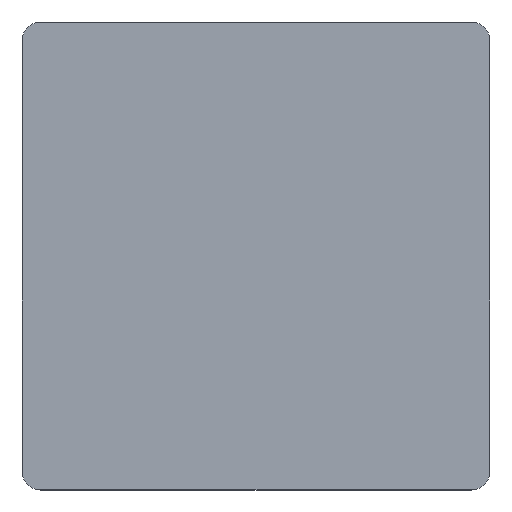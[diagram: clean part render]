
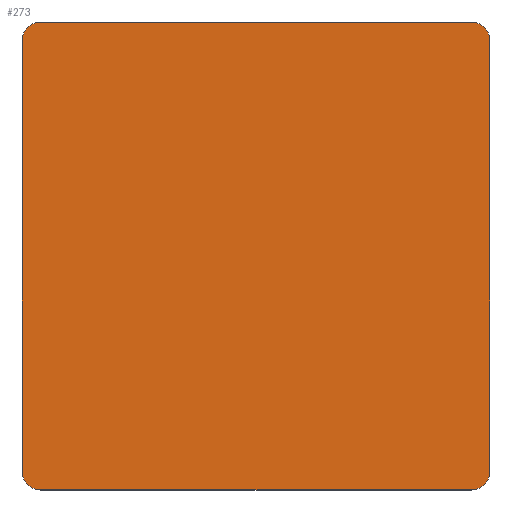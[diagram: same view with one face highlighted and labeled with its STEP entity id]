
A CAD part, top view. The second image highlights one B-rep face of the part: STEP entity #273.
In plain terms, the highlighted planar face has unit normal (0, 0, 1).
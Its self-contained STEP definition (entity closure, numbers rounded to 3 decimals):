
#21 = EDGE_CURVE('',#22,#24,#26,.T.);
#22 = VERTEX_POINT('',#23);
#23 = CARTESIAN_POINT('',(0.,2.,6.));
#24 = VERTEX_POINT('',#25);
#25 = CARTESIAN_POINT('',(2.,0.,6.));
#26 = CIRCLE('',#27,2.);
#27 = AXIS2_PLACEMENT_3D('',#28,#29,#30);
#28 = CARTESIAN_POINT('',(2.,2.,6.));
#29 = DIRECTION('',(0.,0.,1.));
#30 = DIRECTION('',(1.,0.,-0.));
#72 = EDGE_CURVE('',#24,#73,#75,.T.);
#73 = VERTEX_POINT('',#74);
#74 = CARTESIAN_POINT('',(48.,0.,6.));
#75 = LINE('',#76,#77);
#76 = CARTESIAN_POINT('',(2.,0.,6.));
#77 = VECTOR('',#78,1.);
#78 = DIRECTION('',(1.,0.,-0.));
#104 = VERTEX_POINT('',#105);
#105 = CARTESIAN_POINT('',(0.,48.,6.));
#111 = EDGE_CURVE('',#22,#104,#112,.T.);
#112 = LINE('',#113,#114);
#113 = CARTESIAN_POINT('',(0.,2.,6.));
#114 = VECTOR('',#115,1.);
#115 = DIRECTION('',(-0.,1.,0.));
#125 = EDGE_CURVE('',#73,#126,#128,.T.);
#126 = VERTEX_POINT('',#127);
#127 = CARTESIAN_POINT('',(50.,2.,6.));
#128 = CIRCLE('',#129,2.);
#129 = AXIS2_PLACEMENT_3D('',#130,#131,#132);
#130 = CARTESIAN_POINT('',(48.,2.,6.));
#131 = DIRECTION('',(0.,0.,1.));
#132 = DIRECTION('',(1.,0.,-0.));
#158 = EDGE_CURVE('',#159,#104,#161,.T.);
#159 = VERTEX_POINT('',#160);
#160 = CARTESIAN_POINT('',(2.,50.,6.));
#161 = CIRCLE('',#162,2.);
#162 = AXIS2_PLACEMENT_3D('',#163,#164,#165);
#163 = CARTESIAN_POINT('',(2.,48.,6.));
#164 = DIRECTION('',(0.,0.,1.));
#165 = DIRECTION('',(1.,0.,-0.));
#200 = EDGE_CURVE('',#159,#201,#203,.T.);
#201 = VERTEX_POINT('',#202);
#202 = CARTESIAN_POINT('',(48.,50.,6.));
#203 = LINE('',#204,#205);
#204 = CARTESIAN_POINT('',(2.,50.,6.));
#205 = VECTOR('',#206,1.);
#206 = DIRECTION('',(1.,0.,-0.));
#232 = VERTEX_POINT('',#233);
#233 = CARTESIAN_POINT('',(50.,48.,6.));
#239 = EDGE_CURVE('',#126,#232,#240,.T.);
#240 = LINE('',#241,#242);
#241 = CARTESIAN_POINT('',(50.,2.,6.));
#242 = VECTOR('',#243,1.);
#243 = DIRECTION('',(-0.,1.,0.));
#253 = EDGE_CURVE('',#232,#201,#254,.T.);
#254 = CIRCLE('',#255,2.);
#255 = AXIS2_PLACEMENT_3D('',#256,#257,#258);
#256 = CARTESIAN_POINT('',(48.,48.,6.));
#257 = DIRECTION('',(0.,0.,1.));
#258 = DIRECTION('',(1.,0.,-0.));
#273 = ADVANCED_FACE('',(#274),#284,.T.);
#274 = FACE_BOUND('',#275,.T.);
#275 = EDGE_LOOP('',(#276,#277,#278,#279,#280,#281,#282,#283));
#276 = ORIENTED_EDGE('',*,*,#21,.T.);
#277 = ORIENTED_EDGE('',*,*,#72,.T.);
#278 = ORIENTED_EDGE('',*,*,#125,.T.);
#279 = ORIENTED_EDGE('',*,*,#239,.T.);
#280 = ORIENTED_EDGE('',*,*,#253,.T.);
#281 = ORIENTED_EDGE('',*,*,#200,.F.);
#282 = ORIENTED_EDGE('',*,*,#158,.T.);
#283 = ORIENTED_EDGE('',*,*,#111,.F.);
#284 = PLANE('',#285);
#285 = AXIS2_PLACEMENT_3D('',#286,#287,#288);
#286 = CARTESIAN_POINT('',(25.,25.,6.));
#287 = DIRECTION('',(0.,0.,1.));
#288 = DIRECTION('',(1.,0.,-0.));
